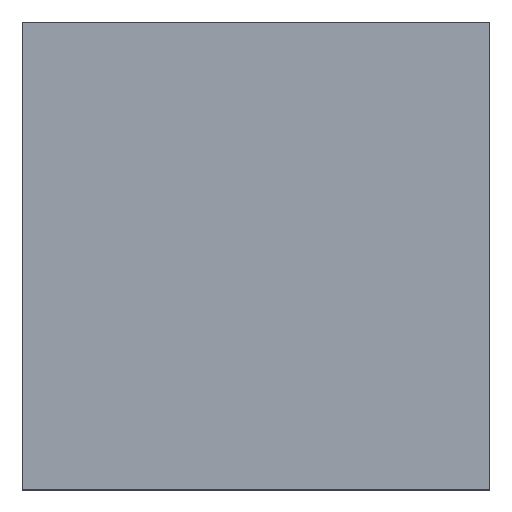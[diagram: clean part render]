
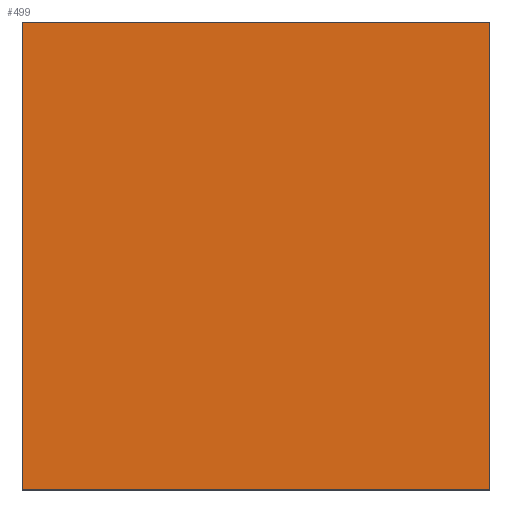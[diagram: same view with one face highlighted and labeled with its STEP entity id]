
A CAD part, top view. The second image highlights one B-rep face of the part: STEP entity #499.
In plain terms, the highlighted planar face has unit normal (0, 0, 1).
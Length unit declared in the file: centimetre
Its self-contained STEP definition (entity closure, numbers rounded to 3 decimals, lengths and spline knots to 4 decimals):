
#1 = LINE ( 'NONE', #869, #512 ) ;
#34 = CARTESIAN_POINT ( 'NONE',  ( 1000., 1000., 1000. ) ) ;
#44 = ORIENTED_EDGE ( 'NONE', *, *, #582, .T. ) ;
#46 = CARTESIAN_POINT ( 'NONE',  ( 0., 1000., 1000. ) ) ;
#49 = EDGE_LOOP ( 'NONE', ( #867, #123, #844, #44 ) ) ;
#60 = PLANE ( 'NONE',  #197 ) ;
#96 = DIRECTION ( 'NONE',  ( 0., 1., 0. ) ) ;
#123 = ORIENTED_EDGE ( 'NONE', *, *, #435, .T. ) ;
#133 = DIRECTION ( 'NONE',  ( 1., 0., 0. ) ) ;
#176 = VERTEX_POINT ( 'NONE', #482 ) ;
#185 = DIRECTION ( 'NONE',  ( 1., 0., 0. ) ) ;
#197 = AXIS2_PLACEMENT_3D ( 'NONE', #356, #914, #133 ) ;
#238 = LINE ( 'NONE', #556, #727 ) ;
#303 = DIRECTION ( 'NONE',  ( -1., 0., 0. ) ) ;
#356 = CARTESIAN_POINT ( 'NONE',  ( 0., 0., 1000. ) ) ;
#383 = VECTOR ( 'NONE', #185, 100. ) ;
#396 = CARTESIAN_POINT ( 'NONE',  ( 1000., 0., 1000. ) ) ;
#435 = EDGE_CURVE ( 'NONE', #176, #619, #586, .T. ) ;
#446 = CARTESIAN_POINT ( 'NONE',  ( 0., 1000., 1000. ) ) ;
#482 = CARTESIAN_POINT ( 'NONE',  ( 0., 0., 1000. ) ) ;
#498 = VERTEX_POINT ( 'NONE', #46 ) ;
#499 = ADVANCED_FACE ( 'NONE', ( #685 ), #60, .T. ) ;
#506 = LINE ( 'NONE', #446, #957 ) ;
#512 = VECTOR ( 'NONE', #303, 100. ) ;
#556 = CARTESIAN_POINT ( 'NONE',  ( 1000., 1000., 1000. ) ) ;
#582 = EDGE_CURVE ( 'NONE', #734, #498, #1, .T. ) ;
#586 = LINE ( 'NONE', #896, #383 ) ;
#619 = VERTEX_POINT ( 'NONE', #396 ) ;
#681 = EDGE_CURVE ( 'NONE', #619, #734, #238, .T. ) ;
#685 = FACE_OUTER_BOUND ( 'NONE', #49, .T. ) ;
#727 = VECTOR ( 'NONE', #96, 100. ) ;
#734 = VERTEX_POINT ( 'NONE', #34 ) ;
#760 = DIRECTION ( 'NONE',  ( 0., -1., 0. ) ) ;
#844 = ORIENTED_EDGE ( 'NONE', *, *, #681, .T. ) ;
#867 = ORIENTED_EDGE ( 'NONE', *, *, #935, .T. ) ;
#869 = CARTESIAN_POINT ( 'NONE',  ( 0., 1000., 1000. ) ) ;
#896 = CARTESIAN_POINT ( 'NONE',  ( 0., 0., 1000. ) ) ;
#914 = DIRECTION ( 'NONE',  ( 0., 0., 1. ) ) ;
#935 = EDGE_CURVE ( 'NONE', #498, #176, #506, .T. ) ;
#957 = VECTOR ( 'NONE', #760, 100. ) ;
